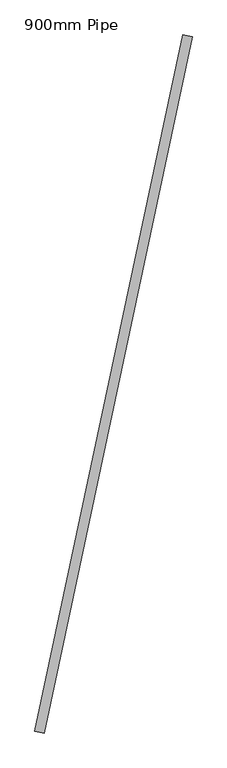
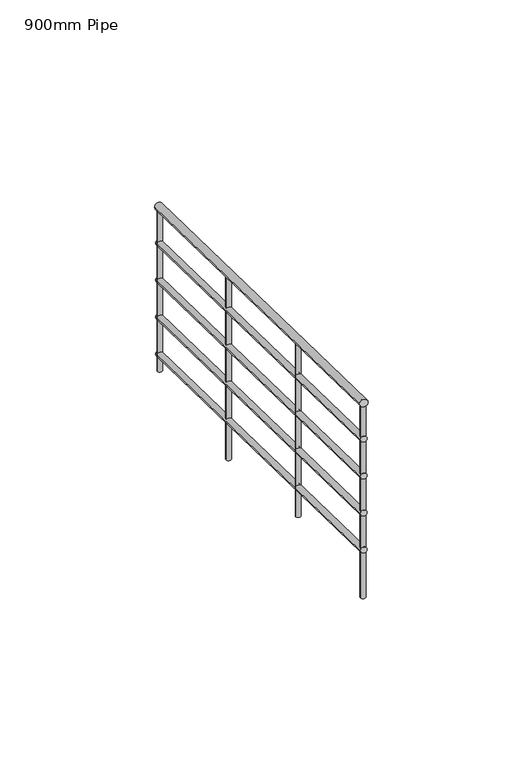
"""IFC4 building model written with IfcOpenShell, lengths in millimetres: railing geometry, 900mm Pipe."""

from ifc_helpers import new_model, si_unit, frame, origin, place, context, project, spatial, circle_curve, ellipse_curve, source, transform, mapped, element, save
from ifc_brep_helpers import plane_surface, cylinder_surface, advanced_brep


def railing_900mm_pipe_b263f094(model_context):
    return source(origin(), model_context, "Body", "AdvancedBrep", [
        advanced_brep(
        [(894416.0798989, 61269.4553135, 6058.386247), (894376.956409, 61277.7831305, 6058.386247), (893803.5577441, 58391.8699499, 6954.8568352), (893764.4342542, 58400.1977669, 6954.8568352)],
        [
            (0, 1, ellipse_curve(frame((894396.5181539, 61273.619222, 6058.386247), z_axis=(0.20819542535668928, 0.9780872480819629, 0.0), x_axis=(0.0, 0.0, -1.0)), 20.9078706, 20.0)),
            (1, 0, ellipse_curve(frame((894396.5181539, 61273.619222, 6058.386247), z_axis=(0.20819542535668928, 0.9780872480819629, 0.0), x_axis=(0.0, 0.0, -1.0)), 20.9078706, 20.0)),
            (2, 3, ellipse_curve(frame((893783.9959991, 58396.0338584, 6954.8568352), z_axis=(-0.20819542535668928, -0.9780872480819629, 0.0), x_axis=(0.0, 0.0, -1.0)), 20.9078706, 20.0)),
            (3, 2, ellipse_curve(frame((893783.9959991, 58396.0338584, 6954.8568352), z_axis=(-0.20819542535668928, -0.9780872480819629, 0.0), x_axis=(0.0, 0.0, -1.0)), 20.9078706, 20.0)),
            (0, 2),
            (3, 1),
        ],
        [
            plane_surface(frame((894396.5181539, 61273.619222, 6079.2941176), z_axis=(0.20819542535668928, 0.9780872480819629, 0.0), x_axis=(0.9780872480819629, -0.20819542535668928, 0.0))),
            plane_surface(frame((893783.9959991, 58396.0338584, 6975.7647059), z_axis=(-0.20819542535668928, -0.9780872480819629, 0.0), x_axis=(0.9780872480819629, -0.20819542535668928, 0.0))),
            cylinder_surface(frame((894395.3044667, 61267.9174058, 6060.1625663), z_axis=(0.19915507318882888, 0.9356163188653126, -0.29147789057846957), x_axis=(-0.978087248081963, 0.20819542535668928, 0.0)), 20.0),
        ],
        [
            (0, [[1, 2]]),
            (1, [[3, 4]]),
            (2, [[-1, 5, -4, 6]]),
            (2, [[-2, -6, -3, -5]]),
        ],
    ),
        advanced_brep(
        [(894411.1894626, 61270.4962906, 5863.6132147), (894381.8468452, 61276.7421534, 5863.6132147), (893798.6673079, 58392.910927, 6760.0838029), (893769.3246904, 58399.1567898, 6760.0838029)],
        [
            (0, 1, ellipse_curve(frame((894396.5181539, 61273.619222, 5863.6132147), z_axis=(0.20819542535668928, 0.9780872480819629, 0.0), x_axis=(0.0, 0.0, -1.0)), 15.680903, 15.0)),
            (1, 0, ellipse_curve(frame((894396.5181539, 61273.619222, 5863.6132147), z_axis=(0.20819542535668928, 0.9780872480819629, 0.0), x_axis=(0.0, 0.0, -1.0)), 15.680903, 15.0)),
            (2, 3, ellipse_curve(frame((893783.9959991, 58396.0338584, 6760.0838029), z_axis=(-0.20819542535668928, -0.9780872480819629, 0.0), x_axis=(0.0, 0.0, -1.0)), 15.680903, 15.0)),
            (3, 2, ellipse_curve(frame((893783.9959991, 58396.0338584, 6760.0838029), z_axis=(-0.20819542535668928, -0.9780872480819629, 0.0), x_axis=(0.0, 0.0, -1.0)), 15.680903, 15.0)),
            (0, 2),
            (3, 1),
        ],
        [
            plane_surface(frame((894396.5181539, 61273.619222, 5879.2941176), z_axis=(0.20819542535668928, 0.9780872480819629, 0.0), x_axis=(0.9780872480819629, -0.20819542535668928, 0.0))),
            plane_surface(frame((893783.9959991, 58396.0338584, 6775.7647059), z_axis=(-0.20819542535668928, -0.9780872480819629, 0.0), x_axis=(0.9780872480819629, -0.20819542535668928, 0.0))),
            cylinder_surface(frame((894395.6078885, 61269.3428599, 5864.9454542), z_axis=(0.19915507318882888, 0.9356163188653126, -0.29147789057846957), x_axis=(-0.978087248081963, 0.20819542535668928, 0.0)), 15.0),
        ],
        [
            (0, [[1, 2]]),
            (1, [[3, 4]]),
            (2, [[-1, 5, -4, 6]]),
            (2, [[-2, -6, -3, -5]]),
        ],
    ),
        advanced_brep(
        [(894411.1894626, 61270.4962906, 5663.6132147), (894381.8468452, 61276.7421534, 5663.6132147), (893798.6673079, 58392.910927, 6560.0838029), (893769.3246904, 58399.1567898, 6560.0838029)],
        [
            (0, 1, ellipse_curve(frame((894396.5181539, 61273.619222, 5663.6132147), z_axis=(0.20819542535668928, 0.9780872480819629, 0.0), x_axis=(0.0, 0.0, -1.0)), 15.680903, 15.0)),
            (1, 0, ellipse_curve(frame((894396.5181539, 61273.619222, 5663.6132147), z_axis=(0.20819542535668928, 0.9780872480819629, 0.0), x_axis=(0.0, 0.0, -1.0)), 15.680903, 15.0)),
            (2, 3, ellipse_curve(frame((893783.9959991, 58396.0338584, 6560.0838029), z_axis=(-0.20819542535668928, -0.9780872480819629, 0.0), x_axis=(0.0, 0.0, -1.0)), 15.680903, 15.0)),
            (3, 2, ellipse_curve(frame((893783.9959991, 58396.0338584, 6560.0838029), z_axis=(-0.20819542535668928, -0.9780872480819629, 0.0), x_axis=(0.0, 0.0, -1.0)), 15.680903, 15.0)),
            (0, 2),
            (3, 1),
        ],
        [
            plane_surface(frame((894396.5181539, 61273.619222, 5679.2941176), z_axis=(0.20819542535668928, 0.9780872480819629, 0.0), x_axis=(0.9780872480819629, -0.20819542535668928, 0.0))),
            plane_surface(frame((893783.9959991, 58396.0338584, 6575.7647059), z_axis=(-0.20819542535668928, -0.9780872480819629, 0.0), x_axis=(0.9780872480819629, -0.20819542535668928, 0.0))),
            cylinder_surface(frame((894395.6078885, 61269.3428599, 5664.9454542), z_axis=(0.19915507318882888, 0.9356163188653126, -0.29147789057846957), x_axis=(-0.978087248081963, 0.20819542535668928, 0.0)), 15.0),
        ],
        [
            (0, [[1, 2]]),
            (1, [[3, 4]]),
            (2, [[-1, 5, -4, 6]]),
            (2, [[-2, -6, -3, -5]]),
        ],
    ),
        advanced_brep(
        [(894411.1894626, 61270.4962906, 5463.6132147), (894381.8468452, 61276.7421534, 5463.6132147), (893798.6673079, 58392.910927, 6360.0838029), (893769.3246904, 58399.1567898, 6360.0838029)],
        [
            (0, 1, ellipse_curve(frame((894396.5181539, 61273.619222, 5463.6132147), z_axis=(0.20819542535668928, 0.9780872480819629, 0.0), x_axis=(0.0, 0.0, -1.0)), 15.680903, 15.0)),
            (1, 0, ellipse_curve(frame((894396.5181539, 61273.619222, 5463.6132147), z_axis=(0.20819542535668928, 0.9780872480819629, 0.0), x_axis=(0.0, 0.0, -1.0)), 15.680903, 15.0)),
            (2, 3, ellipse_curve(frame((893783.9959991, 58396.0338584, 6360.0838029), z_axis=(-0.20819542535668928, -0.9780872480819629, 0.0), x_axis=(0.0, 0.0, -1.0)), 15.680903, 15.0)),
            (3, 2, ellipse_curve(frame((893783.9959991, 58396.0338584, 6360.0838029), z_axis=(-0.20819542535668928, -0.9780872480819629, 0.0), x_axis=(0.0, 0.0, -1.0)), 15.680903, 15.0)),
            (0, 2),
            (3, 1),
        ],
        [
            plane_surface(frame((894396.5181539, 61273.619222, 5479.2941176), z_axis=(0.20819542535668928, 0.9780872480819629, 0.0), x_axis=(0.9780872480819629, -0.20819542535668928, 0.0))),
            plane_surface(frame((893783.9959991, 58396.0338584, 6375.7647059), z_axis=(-0.20819542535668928, -0.9780872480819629, 0.0), x_axis=(0.9780872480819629, -0.20819542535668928, 0.0))),
            cylinder_surface(frame((894395.6078885, 61269.3428599, 5464.9454542), z_axis=(0.19915507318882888, 0.9356163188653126, -0.29147789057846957), x_axis=(-0.978087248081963, 0.20819542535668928, 0.0)), 15.0),
        ],
        [
            (0, [[1, 2]]),
            (1, [[3, 4]]),
            (2, [[-1, 5, -4, 6]]),
            (2, [[-2, -6, -3, -5]]),
        ],
    ),
        advanced_brep(
        [(894411.1894626, 61270.4962906, 5263.6132147), (894381.8468452, 61276.7421534, 5263.6132147), (893798.6673079, 58392.910927, 6160.0838029), (893769.3246904, 58399.1567898, 6160.0838029)],
        [
            (0, 1, ellipse_curve(frame((894396.5181539, 61273.619222, 5263.6132147), z_axis=(0.20819542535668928, 0.9780872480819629, 0.0), x_axis=(0.0, 0.0, -1.0)), 15.680903, 15.0)),
            (1, 0, ellipse_curve(frame((894396.5181539, 61273.619222, 5263.6132147), z_axis=(0.20819542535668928, 0.9780872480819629, 0.0), x_axis=(0.0, 0.0, -1.0)), 15.680903, 15.0)),
            (2, 3, ellipse_curve(frame((893783.9959991, 58396.0338584, 6160.0838029), z_axis=(-0.20819542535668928, -0.9780872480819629, 0.0), x_axis=(0.0, 0.0, -1.0)), 15.680903, 15.0)),
            (3, 2, ellipse_curve(frame((893783.9959991, 58396.0338584, 6160.0838029), z_axis=(-0.20819542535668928, -0.9780872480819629, 0.0), x_axis=(0.0, 0.0, -1.0)), 15.680903, 15.0)),
            (0, 2),
            (3, 1),
        ],
        [
            plane_surface(frame((894396.5181539, 61273.619222, 5279.2941176), z_axis=(0.20819542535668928, 0.9780872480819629, 0.0), x_axis=(0.9780872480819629, -0.20819542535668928, 0.0))),
            plane_surface(frame((893783.9959991, 58396.0338584, 6175.7647059), z_axis=(-0.20819542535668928, -0.9780872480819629, 0.0), x_axis=(0.9780872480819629, -0.20819542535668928, 0.0))),
            cylinder_surface(frame((894395.6078885, 61269.3428599, 5264.9454542), z_axis=(0.19915507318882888, 0.9356163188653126, -0.29147789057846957), x_axis=(-0.978087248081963, 0.20819542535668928, 0.0)), 15.0),
        ],
        [
            (0, [[1, 2]]),
            (1, [[3, 4]]),
            (2, [[-1, 5, -4, 6]]),
            (2, [[-2, -6, -3, -5]]),
        ],
    ),
        advanced_brep(
        [(893967.9012126, 59320.0471686, 6646.8965794), (893967.9012126, 59320.0471686, 5717.1764706), (893992.3533938, 59314.842283, 5717.1764706), (893992.3533938, 59314.842283, 6646.8965794)],
        [
            (0, 1),
            (1, 2, circle_curve(frame((893980.1273032, 59317.4447258, 5717.1764706), z_axis=(0.0, 0.0, 1.0), x_axis=(0.9780872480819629, -0.20819542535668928, 0.0)), 12.5)),
            (2, 3),
            (3, 0, ellipse_curve(frame((893980.1273032, 59317.4447258, 6646.8965794), z_axis=(-0.060684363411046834, -0.2850908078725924, -0.9565775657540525), x_axis=(-0.19915507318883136, -0.9356163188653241, 0.2914778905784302)), 13.0674191, 12.5)),
            (0, 3, ellipse_curve(frame((893980.1273032, 59317.4447258, 6646.8965794), z_axis=(-0.060684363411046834, -0.2850908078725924, -0.9565775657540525), x_axis=(-0.19915507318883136, -0.9356163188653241, 0.2914778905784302)), 13.0674191, 12.5)),
            (2, 1, circle_curve(frame((893980.1273032, 59317.4447258, 5717.1764706), z_axis=(0.0, 0.0, 1.0), x_axis=(0.9780872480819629, -0.20819542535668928, 0.0)), 12.5)),
        ],
        [
            cylinder_surface(frame((893980.1273032, 59317.4447258, 5617.1764706), z_axis=(0.0, 0.0, 1.0), x_axis=(0.9780872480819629, -0.20819542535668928, 0.0)), 12.5),
            plane_surface(frame((893999.3745988, 59287.787659, 6654.5143069), z_axis=(0.060684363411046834, 0.2850908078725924, 0.9565775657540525), x_axis=(-0.9780872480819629, 0.20819542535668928, 0.0))),
            plane_surface(frame((894009.78437, 59336.6920214, 5717.1764706), z_axis=(0.0, 0.0, -1.0), x_axis=(-0.9780872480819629, 0.20819542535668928, 0.0))),
        ],
        [
            (0, [[1, 2, 3, 4]]),
            (0, [[-1, 5, -3, 6]]),
            (1, [[-4, -5]]),
            (2, [[-2, -6]]),
        ],
    ),
        advanced_brep(
        [(894176.096638, 60298.1344167, 6342.1874779), (894176.096638, 60298.1344167, 5358.5882353), (894200.5488192, 60292.9295311, 5358.5882353), (894200.5488192, 60292.9295311, 6342.1874779)],
        [
            (0, 1),
            (1, 2, circle_curve(frame((894188.3227286, 60295.5319739, 5358.5882353), z_axis=(0.0, 0.0, 1.0), x_axis=(0.9780872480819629, -0.20819542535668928, 0.0)), 12.5)),
            (2, 3),
            (3, 0, ellipse_curve(frame((894188.3227286, 60295.5319739, 6342.1874779), z_axis=(-0.06068436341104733, -0.2850908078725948, -0.9565775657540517), x_axis=(-0.1991550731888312, -0.9356163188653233, 0.29147789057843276)), 13.0674191, 12.5)),
            (0, 3, ellipse_curve(frame((894188.3227286, 60295.5319739, 6342.1874779), z_axis=(-0.06068436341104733, -0.2850908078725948, -0.9565775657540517), x_axis=(-0.1991550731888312, -0.9356163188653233, 0.29147789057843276)), 13.0674191, 12.5)),
            (2, 1, circle_curve(frame((894188.3227286, 60295.5319739, 5358.5882353), z_axis=(0.0, 0.0, 1.0), x_axis=(0.9780872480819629, -0.20819542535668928, 0.0)), 12.5)),
        ],
        [
            cylinder_surface(frame((894188.3227286, 60295.5319739, 5258.5882353), z_axis=(0.0, 0.0, 1.0), x_axis=(0.9780872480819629, -0.20819542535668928, 0.0)), 12.5),
            plane_surface(frame((894207.5700241, 60265.8749071, 6349.8052054), z_axis=(0.06068436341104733, 0.2850908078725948, 0.9565775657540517), x_axis=(-0.9780872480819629, 0.20819542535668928, 0.0))),
            plane_surface(frame((894217.9797954, 60314.7792695, 5358.5882353), z_axis=(0.0, 0.0, -1.0), x_axis=(-0.9780872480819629, 0.20819542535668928, 0.0))),
        ],
        [
            (0, [[1, 2, 3, 4]]),
            (0, [[-1, 5, -3, 6]]),
            (1, [[-4, -5]]),
            (2, [[-2, -6]]),
        ],
    ),
        advanced_brep(
        [(893774.3723514, 58410.8623918, 6930.1401008), (893774.3723514, 58410.8623918, 5896.4705882), (893798.8245326, 58405.6575062, 5896.4705882), (893798.8245326, 58405.6575062, 6930.1401008)],
        [
            (0, 1),
            (1, 2, circle_curve(frame((893786.598442, 58408.259949, 5896.4705882), z_axis=(0.0, 0.0, 1.0), x_axis=(0.9780872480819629, -0.20819542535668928, 0.0)), 12.5)),
            (2, 3),
            (3, 0, ellipse_curve(frame((893786.598442, 58408.259949, 6930.1401008), z_axis=(-0.060684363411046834, -0.2850908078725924, -0.9565775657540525), x_axis=(-0.19915507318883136, -0.9356163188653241, 0.2914778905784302)), 13.0674191, 12.5)),
            (0, 3, ellipse_curve(frame((893786.598442, 58408.259949, 6930.1401008), z_axis=(-0.060684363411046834, -0.2850908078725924, -0.9565775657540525), x_axis=(-0.19915507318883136, -0.9356163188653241, 0.2914778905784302)), 13.0674191, 12.5)),
            (2, 1, circle_curve(frame((893786.598442, 58408.259949, 5896.4705882), z_axis=(0.0, 0.0, 1.0), x_axis=(0.9780872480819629, -0.20819542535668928, 0.0)), 12.5)),
        ],
        [
            cylinder_surface(frame((893786.598442, 58408.259949, 5796.4705882), z_axis=(0.0, 0.0, 1.0), x_axis=(0.9780872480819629, -0.20819542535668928, 0.0)), 12.5),
            plane_surface(frame((893805.8457375, 58378.6028822, 6937.7578284), z_axis=(0.060684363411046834, 0.2850908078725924, 0.9565775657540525), x_axis=(-0.9780872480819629, 0.20819542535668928, 0.0))),
            plane_surface(frame((893816.2555088, 58427.5072446, 5896.4705882), z_axis=(0.0, 0.0, -1.0), x_axis=(-0.9780872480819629, 0.20819542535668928, 0.0))),
        ],
        [
            (0, [[1, 2, 3, 4]]),
            (0, [[-1, 5, -3, 6]]),
            (1, [[-4, -5]]),
            (2, [[-2, -6]]),
        ],
    ),
        advanced_brep(
        [(894381.6896205, 61263.9955742, 6041.2872401), (894381.6896205, 61263.9955742, 5179.2941176), (894406.1418017, 61258.7906886, 5179.2941176), (894406.1418017, 61258.7906886, 6041.2872401)],
        [
            (0, 1),
            (1, 2, circle_curve(frame((894393.9157111, 61261.3931314, 5179.2941176), z_axis=(0.0, 0.0, 1.0), x_axis=(0.9780872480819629, -0.20819542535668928, 0.0)), 12.5)),
            (2, 3),
            (3, 0, ellipse_curve(frame((894393.9157111, 61261.3931314, 6041.2872401), z_axis=(-0.06068436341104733, -0.2850908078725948, -0.9565775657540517), x_axis=(-0.1991550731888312, -0.9356163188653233, 0.29147789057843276)), 13.0674191, 12.5)),
            (0, 3, ellipse_curve(frame((894393.9157111, 61261.3931314, 6041.2872401), z_axis=(-0.06068436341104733, -0.2850908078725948, -0.9565775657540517), x_axis=(-0.1991550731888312, -0.9356163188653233, 0.29147789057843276)), 13.0674191, 12.5)),
            (2, 1, circle_curve(frame((894393.9157111, 61261.3931314, 5179.2941176), z_axis=(0.0, 0.0, 1.0), x_axis=(0.9780872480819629, -0.20819542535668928, 0.0)), 12.5)),
        ],
        [
            cylinder_surface(frame((894393.9157111, 61261.3931314, 5079.2941176), z_axis=(0.0, 0.0, 1.0), x_axis=(0.9780872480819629, -0.20819542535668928, 0.0)), 12.5),
            plane_surface(frame((894413.1630067, 61231.7360645, 6048.9049677), z_axis=(0.06068436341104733, 0.2850908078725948, 0.9565775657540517), x_axis=(-0.9780872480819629, 0.20819542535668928, 0.0))),
            plane_surface(frame((894423.5727779, 61280.6404269, 5179.2941176), z_axis=(0.0, 0.0, -1.0), x_axis=(-0.9780872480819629, 0.20819542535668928, 0.0))),
        ],
        [
            (0, [[1, 2, 3, 4]]),
            (0, [[-1, 5, -3, 6]]),
            (1, [[-4, -5]]),
            (2, [[-2, -6]]),
        ],
    ),
    ])


if __name__ == "__main__":
    model = new_model("IFC4")
    model_context = context("Model", 3, world=origin())
    ifc_project = project(units=[si_unit("LENGTHUNIT", "METRE", prefix="MILLI")], contexts=[model_context])
    site = spatial("IfcSite", under=ifc_project)
    building = spatial("IfcBuilding", under=site)
    placement = place(None, origin())
    railing_900mm_pipe_shape = railing_900mm_pipe_b263f094(model_context)
    element("IfcRailing", 1, ObjectType="900mm Pipe", at=placement, inside=building, context=model_context, shape_type="MappedRepresentation", body=[
        mapped(railing_900mm_pipe_shape, transform((0.0, 0.0, 0.0), x_axis=(1.0, 0.0, 0.0), y_axis=(0.0, 1.0, 0.0), z_axis=(0.0, 0.0, 1.0))),
    ])
    save(model, "model.ifc")
